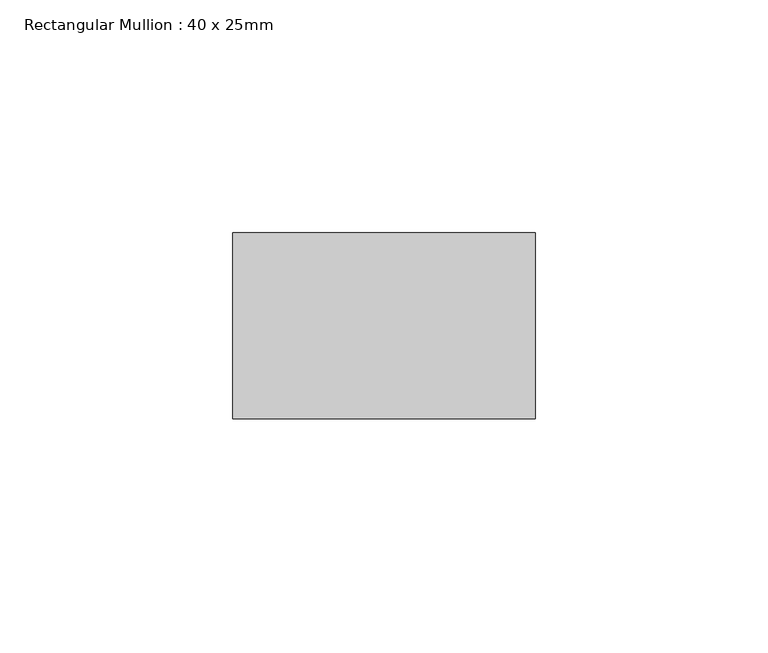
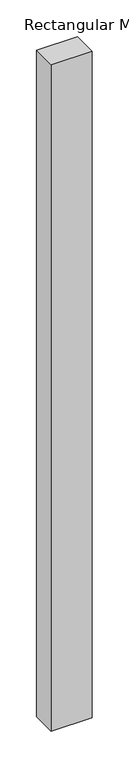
"""IFC4 building model written with IfcOpenShell, lengths in millimetres: member geometry, Rectangular Mullion : 40 x 25mm."""

import ifcopenshell
import ifcopenshell.guid

model = None  # the IFC model being written
_history = None  # IfcOwnerHistory: only IFC2X3 demands one
_inside = {}  # id of a spatial element -> (the spatial element, [elements in it])
_under = {}  # id of a project, library or spatial element -> (it, [spatial elements below it])
_declared = {}  # id of a project -> (the project, [libraries it declares])
_typed = {}  # id of a type object -> (the type object, [elements of that type])
_made_of = {}  # id of a material, layer set ... -> (it, [elements and type objects made of it])


def new_model(schema):
    """Start an empty IFC model of exactly this schema.

    Asked for "IFC4X3", IfcOpenShell would pick the latest addendum, in which some entities
    have other attributes; the version numbers below select the first issue.
    IFC2X3 requires an IfcOwnerHistory on every rooted entity: one is made here for all.
    """
    global model, _history
    if schema == "IFC4X3":
        model = ifcopenshell.file(schema_version=(4, 3, 0, 0))
    else:
        model = ifcopenshell.file(schema=schema)
    _inside.clear()
    _under.clear()
    _declared.clear()
    _typed.clear()
    _made_of.clear()
    _history = None
    if model.schema == "IFC2X3":
        org = make("IfcOrganization", Name="unknown")
        user = make(
            "IfcPersonAndOrganization",
            ThePerson=make("IfcPerson", FamilyName="unknown"),
            TheOrganization=org,
        )
        app = make(
            "IfcApplication",
            ApplicationDeveloper=org,
            Version="unknown",
            ApplicationFullName="unknown",
            ApplicationIdentifier="unknown",
        )
        _history = make(
            "IfcOwnerHistory",
            OwningUser=user,
            OwningApplication=app,
            ChangeAction="ADDED",
            CreationDate=0,
        )
    return model


def make(cls, **values):
    """One entity of the class cls with the attributes given. An attribute that is None is left unset."""
    return model.create_entity(
        cls, **{name: value for name, value in values.items() if value is not None}
    )


def rooted(cls, **values):
    """An entity with a GlobalId (a new one), such as an element, a storey or a relation."""
    return make(cls, GlobalId=ifcopenshell.guid.new(), OwnerHistory=_history, **values)


def si_unit(unit_type, name, prefix=None):
    """IfcSIUnit, for example si_unit("LENGTHUNIT", "METRE", prefix="MILLI")."""
    return make("IfcSIUnit", UnitType=unit_type, Prefix=prefix, Name=name)


def assignment(units):
    """IfcUnitAssignment: the units of a project."""
    return None if units is None else make("IfcUnitAssignment", Units=units)


def point(xyz):
    """IfcCartesianPoint."""
    return None if xyz is None else make("IfcCartesianPoint", Coordinates=xyz)


def direction(xyz):
    """IfcDirection."""
    return None if xyz is None else make("IfcDirection", DirectionRatios=xyz)


def frame(location, z_axis=None, x_axis=None):
    """IfcAxis2Placement3D, a coordinate frame: its origin and axes. An axis left out is left unset."""
    return make(
        "IfcAxis2Placement3D",
        Location=point(location),
        Axis=direction(z_axis),
        RefDirection=direction(x_axis),
    )


def origin():
    """The frame at (0, 0, 0) with its axes left unset."""
    return frame((0.0, 0.0, 0.0))


def place(relative_to, where):
    """IfcLocalPlacement: puts the frame where relative to a parent placement (None: the world)."""
    return make(
        "IfcLocalPlacement", PlacementRelTo=relative_to, RelativePlacement=where
    )


def context(
    kind, dimensions, precision=None, world=None, true_north=None, identifier=None
):
    """IfcGeometricRepresentationContext, for example the 3D "Model" context."""
    return make(
        "IfcGeometricRepresentationContext",
        ContextIdentifier=identifier,
        ContextType=kind,
        CoordinateSpaceDimension=dimensions,
        Precision=precision,
        WorldCoordinateSystem=world,
        TrueNorth=true_north,
    )


def project(units=None, contexts=None):
    """IfcProject with its units and contexts."""
    return rooted(
        "IfcProject",
        Name="project",
        RepresentationContexts=contexts,
        UnitsInContext=assignment(units),
    )


def spatial(cls, under=None, at=None, **own):
    """A site, building, storey or space (cls), placed at a placement, below another one or the project."""
    s = rooted(cls, ObjectPlacement=at, **own)
    if under is not None:
        _under.setdefault(under.id(), (under, []))[1].append(s)
    return s


def polyline(points):
    """IfcPolyline through the points."""
    return make("IfcPolyline", Points=[point(p) for p in points])


def outline(outer, holes=None, kind="AREA"):
    """IfcArbitraryClosedProfileDef: a profile drawn as a closed curve; with holes, ...WithVoids."""
    if holes is None:
        return make("IfcArbitraryClosedProfileDef", ProfileType=kind, OuterCurve=outer)
    return make(
        "IfcArbitraryProfileDefWithVoids",
        ProfileType=kind,
        OuterCurve=outer,
        InnerCurves=holes,
    )


def extrude(swept, where, along, depth):
    """IfcExtrudedAreaSolid: the profile swept, set in the frame where, extruded along a direction by depth."""
    return make(
        "IfcExtrudedAreaSolid",
        SweptArea=swept,
        Position=where,
        ExtrudedDirection=direction(along),
        Depth=depth,
    )


def shape(context_of_items, identifier, shape_type, items):
    """IfcShapeRepresentation: the items that make up one representation, for example the "Body"."""
    return make(
        "IfcShapeRepresentation",
        ContextOfItems=context_of_items,
        RepresentationIdentifier=identifier,
        RepresentationType=shape_type,
        Items=items,
    )


def source(mapping_origin, context_of_items, identifier, shape_type, items):
    """IfcRepresentationMap: a shape defined once, which mapped items show again and again."""
    return make(
        "IfcRepresentationMap",
        MappingOrigin=mapping_origin,
        MappedRepresentation=shape(context_of_items, identifier, shape_type, items),
    )


def transform(
    local_origin,
    x_axis=None,
    y_axis=None,
    z_axis=None,
    scale=None,
    scale2=None,
    scale3=None,
    uniform=True,
):
    """IfcCartesianTransformationOperator3D, or its non-uniform kind. x_axis, y_axis, z_axis: its Axis1, 2, 3."""
    if uniform:
        return make(
            "IfcCartesianTransformationOperator3D",
            Axis1=direction(x_axis),
            Axis2=direction(y_axis),
            LocalOrigin=point(local_origin),
            Scale=scale,
            Axis3=direction(z_axis),
        )
    return make(
        "IfcCartesianTransformationOperator3DnonUniform",
        Axis1=direction(x_axis),
        Axis2=direction(y_axis),
        LocalOrigin=point(local_origin),
        Scale=scale,
        Axis3=direction(z_axis),
        Scale2=scale2,
        Scale3=scale3,
    )


def mapped(mapping_source, mapping_target):
    """IfcMappedItem: shows the shape of a source again, moved by a transform."""
    return make(
        "IfcMappedItem", MappingSource=mapping_source, MappingTarget=mapping_target
    )


def made_of(thing, what):
    """Note that an element or type object is made of a material, layer set ...; save() writes the relation."""
    if what is not None:
        _made_of.setdefault(what.id(), (what, []))[1].append(thing)
    return thing


def element(
    cls,
    number,
    at=None,
    inside=None,
    cuts=None,
    type_object=None,
    material=None,
    context=None,
    identifier="Body",
    shape_type=None,
    held_by="IfcProductDefinitionShape",
    body=None,
    shapes=None,
    **own,
):
    """One element of the class cls, such as IfcWall. Its Tag is "e" and its number.

    at: its placement. inside: the storey or other place that contains it. cuts: it is an
    opening in that element (IfcRelVoidsElement). A single representation is given by context,
    identifier, shape_type and body (its items); several are given by shapes. held_by: the class
    of the entity that holds the representations. save() writes the other relations.
    """
    e = rooted(cls, Tag="e%d" % number, ObjectPlacement=at, **own)
    if body is not None:
        shapes = [shape(context, identifier, shape_type, body)]
    if shapes is not None:
        e.Representation = make(held_by, Representations=shapes)
    if inside is not None:
        _inside.setdefault(inside.id(), (inside, []))[1].append(e)
    if cuts is not None:
        rooted(
            "IfcRelVoidsElement", RelatingBuildingElement=cuts, RelatedOpeningElement=e
        )
    if type_object is not None:
        _typed.setdefault(type_object.id(), (type_object, []))[1].append(e)
    return made_of(e, material)


def aggregate(whole, parts):
    """IfcRelAggregates: a whole, such as a stair, and the parts it consists of."""
    return rooted("IfcRelAggregates", RelatingObject=whole, RelatedObjects=parts)


def save(model, path):
    """Write the relations noted so far, then the file.

    IfcRelAggregates (storeys below a building ...), IfcRelContainedInSpatialStructure (elements
    in a storey), IfcRelDefinesByType, IfcRelAssociatesMaterial and IfcRelDeclares: one each for
    every whole, place, type object, material and project.
    """
    for whole, parts in _under.values():
        aggregate(whole, parts)
    for where, things in _inside.values():
        rooted(
            "IfcRelContainedInSpatialStructure",
            RelatedElements=things,
            RelatingStructure=where,
        )
    for kind, things in _typed.values():
        rooted("IfcRelDefinesByType", RelatedObjects=things, RelatingType=kind)
    for what, things in _made_of.values():
        rooted("IfcRelAssociatesMaterial", RelatedObjects=things, RelatingMaterial=what)
    for by, libraries in _declared.values():
        rooted("IfcRelDeclares", RelatingContext=by, RelatedDefinitions=libraries)
    model.write(path)


def rectangular_mullion_40_x_25mm_fe299e41(model_context):
    return source(origin(), model_context, "Body", "SweptSolid", [
        extrude(outline(polyline([(40.0, -20.0), (40.0, -60.0), (-25.0, -60.0), (-25.0, -20.0), (40.0, -20.0)])), frame((0.0, 0.0, -1111.0282644), z_axis=(0.0, 0.0, 1.0), x_axis=(1.0, 0.0, 0.0)), (0.0, 0.0, 1.0), 1111.0282644),
    ])


if __name__ == "__main__":
    model = new_model("IFC4")
    model_context = context("Model", 3, world=origin())
    ifc_project = project(units=[si_unit("LENGTHUNIT", "METRE", prefix="MILLI")], contexts=[model_context])
    site = spatial("IfcSite", under=ifc_project)
    building = spatial("IfcBuilding", under=site)
    placement = place(None, origin())
    rectangular_mullion_40_x_25mm_shape = rectangular_mullion_40_x_25mm_fe299e41(model_context)
    element("IfcMember", 1, ObjectType="Rectangular Mullion : 40 x 25mm", at=placement, inside=building, context=model_context, shape_type="MappedRepresentation", body=[
        mapped(rectangular_mullion_40_x_25mm_shape, transform((0.0, 0.0, 0.0), x_axis=(1.0, 0.0, 0.0), y_axis=(0.0, 1.0, 0.0), z_axis=(0.0, 0.0, 1.0))),
    ])
    save(model, "model.ifc")
